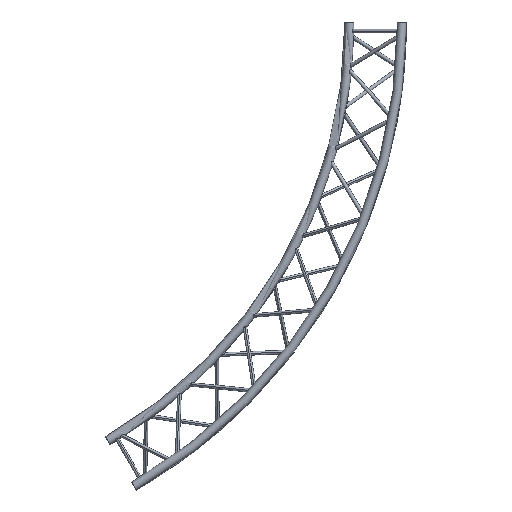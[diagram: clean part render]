
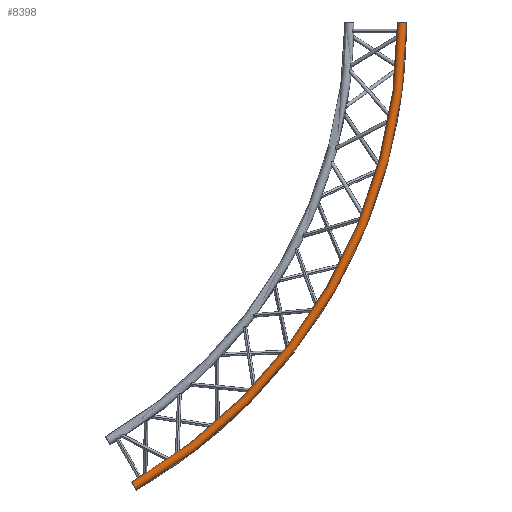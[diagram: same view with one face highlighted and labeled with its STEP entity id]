
A CAD part, front view. The second image highlights one B-rep face of the part: STEP entity #8398.
In plain terms, the highlighted toroidal (fillet/blend) face has major radius 2975 mm and minor radius 25 mm.
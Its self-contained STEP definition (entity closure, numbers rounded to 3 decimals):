
#1861 = CIRCLE ( 'NONE', #1900, 2950. ) ;
#1899 = CARTESIAN_POINT ( 'NONE',  ( 0., -168.5, 0. ) ) ;
#1900 = AXIS2_PLACEMENT_3D ( 'NONE', #1899, #1926, #1925 ) ;
#1925 = DIRECTION ( 'NONE',  ( 0., 0., -1. ) ) ;
#1926 = DIRECTION ( 'NONE',  ( 0., -1., 0. ) ) ;
#3002 = AXIS2_PLACEMENT_3D ( 'NONE', #3070, #3005, #3015 ) ;
#3005 = DIRECTION ( 'NONE',  ( 0.866, 0., 0.5 ) ) ;
#3015 = DIRECTION ( 'NONE',  ( 0.5, 0., -0.866 ) ) ;
#3020 = CIRCLE ( 'NONE', #3002, 25. ) ;
#3070 = CARTESIAN_POINT ( 'NONE',  ( 1487.5, -168.5, -2576.426 ) ) ;
#4039 = AXIS2_PLACEMENT_3D ( 'NONE', #4057, #4131, #4050 ) ;
#4050 = DIRECTION ( 'NONE',  ( 0., 0., -1. ) ) ;
#4057 = CARTESIAN_POINT ( 'NONE',  ( 0., -168.5, 0. ) ) ;
#4103 = CIRCLE ( 'NONE', #4039, 3000. ) ;
#4131 = DIRECTION ( 'NONE',  ( 0., -1., 0. ) ) ;
#5138 = CARTESIAN_POINT ( 'NONE',  ( 2950., -168.5, 0. ) ) ;
#5139 = DIRECTION ( 'NONE',  ( 1., 0., 0. ) ) ;
#5140 = DIRECTION ( 'NONE',  ( 0., 0., 1. ) ) ;
#5141 = CARTESIAN_POINT ( 'NONE',  ( 2975., -168.5, 0. ) ) ;
#5142 = AXIS2_PLACEMENT_3D ( 'NONE', #5141, #5140, #5139 ) ;
#5147 = CIRCLE ( 'NONE', #5142, 25. ) ;
#5395 = CARTESIAN_POINT ( 'NONE',  ( 3000., -168.5, 0. ) ) ;
#7231 = CARTESIAN_POINT ( 'NONE',  ( 1475., -168.5, -2554.775 ) ) ;
#7236 = CARTESIAN_POINT ( 'NONE',  ( 1500., -168.5, -2598.076 ) ) ;
#7864 = DIRECTION ( 'NONE',  ( 0., 0., -1. ) ) ;
#7929 = AXIS2_PLACEMENT_3D ( 'NONE', #7960, #7940, #7864 ) ;
#7940 = DIRECTION ( 'NONE',  ( 0., -1., 0. ) ) ;
#7942 = FACE_OUTER_BOUND ( 'NONE', #8399, .T. ) ;
#7951 = TOROIDAL_SURFACE ( 'NONE', #7929, 2975., 25. ) ;
#7960 = CARTESIAN_POINT ( 'NONE',  ( 0., -168.5, 0. ) ) ;
#8033 = ORIENTED_EDGE ( 'NONE', *, *, #8034, .F. ) ;
#8034 = EDGE_CURVE ( 'NONE', #8378, #8074, #1861, .T. ) ;
#8059 = EDGE_CURVE ( 'NONE', #8379, #8089, #4103, .T. ) ;
#8072 = ORIENTED_EDGE ( 'NONE', *, *, #8073, .F. ) ;
#8073 = EDGE_CURVE ( 'NONE', #8074, #8089, #5147, .T. ) ;
#8074 = VERTEX_POINT ( 'NONE', #5138 ) ;
#8075 = EDGE_CURVE ( 'NONE', #8378, #8379, #3020, .T. ) ;
#8087 = ORIENTED_EDGE ( 'NONE', *, *, #8059, .T. ) ;
#8089 = VERTEX_POINT ( 'NONE', #5395 ) ;
#8373 = ORIENTED_EDGE ( 'NONE', *, *, #8075, .T. ) ;
#8378 = VERTEX_POINT ( 'NONE', #7231 ) ;
#8379 = VERTEX_POINT ( 'NONE', #7236 ) ;
#8398 = ADVANCED_FACE ( 'NONE', ( #7942 ), #7951, .T. ) ;
#8399 = EDGE_LOOP ( 'NONE', ( #8373, #8087, #8072, #8033 ) ) ;
